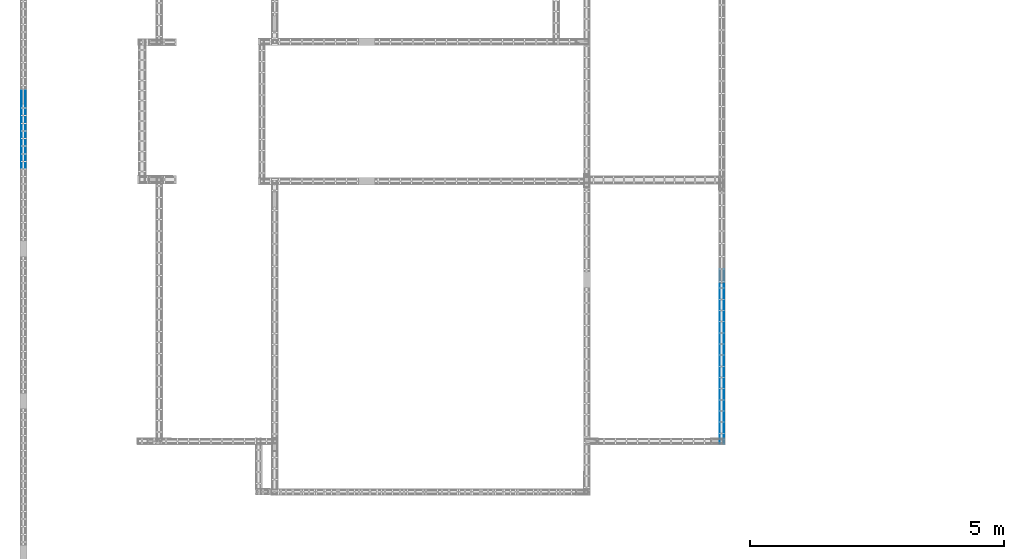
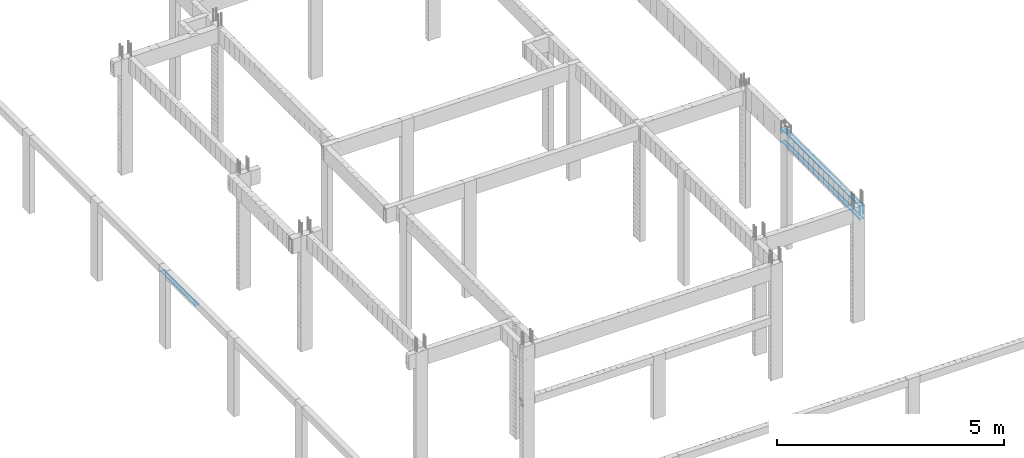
# One storey, part 20 of 236: 6 reinforcing bars.
"""IFC4 building model written with IfcOpenShell, lengths in centimetres."""

from ifc_helpers import new_model, entity, si_unit, derived_unit, frame, origin_with_axes, place, context, project, spatial, element, save


model = new_model("IFC4")

# Units and contexts
model_context = context("Model", 3, precision=1e-05, world=origin_with_axes(), identifier="Body")
ifc_project = project(units=[si_unit("LENGTHUNIT", "METRE", prefix="CENTI"), si_unit("VOLUMEUNIT", "CUBIC_METRE"), si_unit("AREAUNIT", "SQUARE_METRE"), si_unit("POWERUNIT", "WATT"), si_unit("LUMINOUSFLUXUNIT", "LUMEN"), si_unit("ELECTRICCURRENTUNIT", "AMPERE"), si_unit("PRESSUREUNIT", "PASCAL", prefix="KILO"), si_unit("MASSUNIT", "GRAM", prefix="KILO"), si_unit("PLANEANGLEUNIT", "RADIAN"), derived_unit("VOLUMETRICFLOWRATEUNIT", [(si_unit("LENGTHUNIT", "METRE"), 3), (si_unit("TIMEUNIT", "SECOND"), -1)])], contexts=[model_context])

# Site, building, storey
site_placement = place(None, frame((-4000.0, 0.0, 0.0), z_axis=(0.0, 0.0, 1.0), x_axis=(1.0, 0.0, 0.0)))
site = spatial("IfcSite", under=ifc_project, at=site_placement, Name="PADRÃO")
building_placement = place(site_placement, frame((0.0, 0.0, -14.0)))
building = spatial("IfcBuilding", under=site, at=building_placement, Name="CRECHE PRÉ-ESCOLA TIPO 2")
placement_1 = place(building_placement, origin_with_axes())
placement_2 = place(placement_1, frame((0.0, 0.0, 30.0), z_axis=(0.0, 0.0, 1.0), x_axis=(1.0, 0.0, 0.0)))
storey_placement = place(placement_2, frame((0.0, 0.0, 310.0), z_axis=(0.0, 0.0, 1.0), x_axis=(1.0, 0.0, 0.0)))
storey = spatial("IfcBuildingStorey", under=building, at=storey_placement, Name="TERREO", CompositionType="ELEMENT", Elevation=326.0)

# Reinforcing bars
for number, where, z_axis, x_axis, name in (
    (1, (1380.74, 682.055, -36.7), (0.0, 0.0, 1.0), (1.0, 0.0, 0.0), "V281 - Longitudinal inferior"),
    (2, (1388.94, 682.055, -36.7), (0.0, 0.0, 1.0), (1.0, 0.0, 0.0), "V281 - Longitudinal inferior"),
):
    element("IfcReinforcingBar", number, at=place(storey_placement, frame(where, z_axis=z_axis, x_axis=x_axis)), inside=storey, Name=name, BarLength=0.0, CrossSectionArea=5.0265482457e-05, NominalDiameter=0.8, PredefinedType="MAIN", context=model_context, shape_type="AdvancedSweptSolid", body=[
        entity("IfcSweptDiskSolid", entity("IfcCompositeCurve", [entity("IfcCompositeCurveSegment", "CONTINUOUS", True, entity("IfcPolyline", [entity("IfcCartesianPoint", [0.0, -172.045, -0.4]), entity("IfcCartesianPoint", [0.0, 172.045, -0.4])]))], False), 0.4),
    ])
for number, where, z_axis, x_axis, name in (
    (3, (1380.74, 682.055, -2.49624973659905), (0.0, 0.0, 1.0), (1.0, 0.0, 0.0), "V281 - Longitudinal superior"),
    (4, (1388.94, 682.055, -2.49624973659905), (0.0, 0.0, 1.0), (1.0, 0.0, 0.0), "V281 - Longitudinal superior"),
):
    element("IfcReinforcingBar", number, at=place(storey_placement, frame(where, z_axis=z_axis, x_axis=x_axis)), inside=storey, Name=name, BarLength=0.0, CrossSectionArea=5.0265482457e-05, NominalDiameter=0.8, PredefinedType="MAIN", context=model_context, shape_type="AdvancedSweptSolid", body=[
        entity("IfcSweptDiskSolid", entity("IfcCompositeCurve", [entity("IfcCompositeCurveSegment", "CONTINUOUS", True, entity("IfcPolyline", [entity("IfcCartesianPoint", [0.0, -171.645, -22.7014629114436]), entity("IfcCartesianPoint", [0.0, -171.645, -0.403750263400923])])), entity("IfcCompositeCurveSegment", "CONTINUOUS", True, entity("IfcPolyline", [entity("IfcCartesianPoint", [0.0, -171.645, -0.403750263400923]), entity("IfcCartesianPoint", [0.0, 171.645, -0.403750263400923])])), entity("IfcCompositeCurveSegment", "CONTINUOUS", True, entity("IfcPolyline", [entity("IfcCartesianPoint", [0.0, 171.645, -0.403750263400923]), entity("IfcCartesianPoint", [0.0, 171.645, -10.4037502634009])]))], False), 0.4),
    ])
for number, where, z_axis, x_axis, name in (
    (5, (4.4, 1130.18584009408, -116.7), (0.0, 0.0, 1.0), (1.0, 0.0, 0.0), "V324 - Longitudinal inferior"),
    (6, (12.6, 1130.18584009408, -116.7), (0.0, 0.0, 1.0), (1.0, 0.0, 0.0), "V324 - Longitudinal inferior"),
):
    element("IfcReinforcingBar", number, at=place(storey_placement, frame(where, z_axis=z_axis, x_axis=x_axis)), inside=storey, Name=name, BarLength=0.0, CrossSectionArea=5.0265482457e-05, NominalDiameter=0.8, PredefinedType="MAIN", context=model_context, shape_type="AdvancedSweptSolid", body=[
        entity("IfcSweptDiskSolid", entity("IfcCompositeCurve", [entity("IfcCompositeCurveSegment", "CONTINUOUS", True, entity("IfcPolyline", [entity("IfcCartesianPoint", [0.0, -76.0, -0.4]), entity("IfcCartesianPoint", [0.0, 76.0, -0.4])]))], False), 0.4),
    ])

save(model, "model.ifc")
